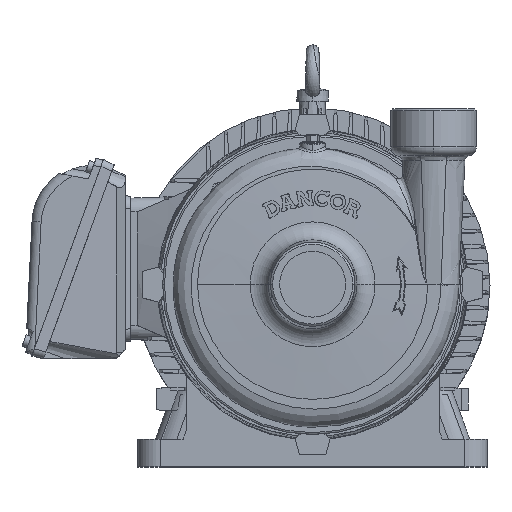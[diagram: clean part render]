
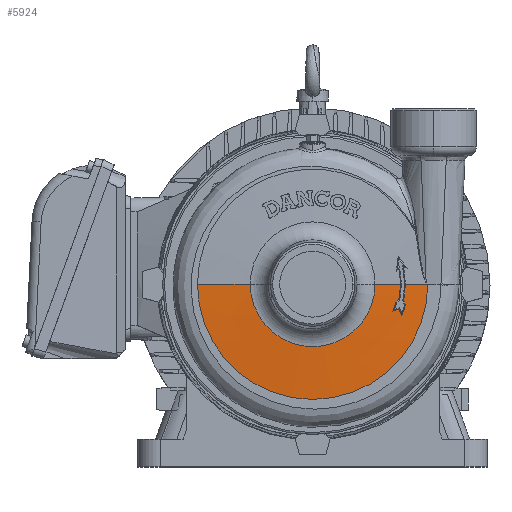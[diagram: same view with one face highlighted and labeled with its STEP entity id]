
A CAD part, top view. The second image highlights one B-rep face of the part: STEP entity #5924.
In plain terms, the highlighted conical face has half-angle 87 degrees and reference radius 128.5 mm.
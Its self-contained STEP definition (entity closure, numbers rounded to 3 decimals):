
#285 = LINE ( 'NONE', #10183, #22970 ) ;
#289 = VERTEX_POINT ( 'NONE', #22758 ) ;
#432 = CARTESIAN_POINT ( 'NONE',  ( 92.719, -28.056, 13.458 ) ) ;
#1742 = CARTESIAN_POINT ( 'NONE',  ( 0., 0., 11.8 ) ) ;
#2286 = CARTESIAN_POINT ( 'NONE',  ( 96.025, -29.482, 13.271 ) ) ;
#2460 = B_SPLINE_CURVE_WITH_KNOTS ( 'NONE', 3,
 ( #7739, #31206, #34259, #27455 ),
 .UNSPECIFIED., .F., .F.,
 ( 4, 4 ),
 ( 0., 0.005 ),
 .UNSPECIFIED. ) ;
#2649 = CARTESIAN_POINT ( 'NONE',  ( 100.115, -17.887, 13.205 ) ) ;
#3497 = CARTESIAN_POINT ( 'NONE',  ( 0., 0., 14.937 ) ) ;
#3611 = DIRECTION ( 'NONE',  ( -1., 0., 0. ) ) ;
#3655 = EDGE_CURVE ( 'NONE', #25845, #289, #36688, .T. ) ;
#3740 = CARTESIAN_POINT ( 'NONE',  ( 90.475, -28.859, 13.558 ) ) ;
#3805 = DIRECTION ( 'NONE',  ( 1., 0., 0. ) ) ;
#4360 = CARTESIAN_POINT ( 'NONE',  ( 90.779, -23.002, 13.63 ) ) ;
#4491 = CARTESIAN_POINT ( 'NONE',  ( 126.494, -0.214, 11.905 ) ) ;
#4513 = DIRECTION ( 'NONE',  ( 0., 0., 1. ) ) ;
#5113 = CARTESIAN_POINT ( 'NONE',  ( 101.126, -26.155, 13.065 ) ) ;
#5465 = EDGE_CURVE ( 'NONE', #26636, #7824, #2460, .T. ) ;
#5566 = CARTESIAN_POINT ( 'NONE',  ( -126.636, 0., 11.898 ) ) ;
#5924 = ADVANCED_FACE ( 'NONE', ( #34651 ), #41995, .T. ) ;
#6223 = B_SPLINE_CURVE_WITH_KNOTS ( 'NONE', 3,
 ( #28819, #8033, #2286, #8882 ),
 .UNSPECIFIED., .F., .F.,
 ( 4, 4 ),
 ( 0., 0.007 ),
 .UNSPECIFIED. ) ;
#6443 = AXIS2_PLACEMENT_3D ( 'NONE', #3497, #22830, #36417 ) ;
#6906 = CARTESIAN_POINT ( 'NONE',  ( 0., 0., 13.488 ) ) ;
#7483 = VERTEX_POINT ( 'NONE', #5566 ) ;
#7739 = CARTESIAN_POINT ( 'NONE',  ( 100.115, -17.887, 13.205 ) ) ;
#7788 = CARTESIAN_POINT ( 'NONE',  ( 126.635, -0.318, 11.898 ) ) ;
#7824 = VERTEX_POINT ( 'NONE', #14976 ) ;
#7991 = CARTESIAN_POINT ( 'NONE',  ( 102.119, -22.096, 13.059 ) ) ;
#8033 = CARTESIAN_POINT ( 'NONE',  ( 97.086, -31.711, 13.183 ) ) ;
#8285 = CIRCLE ( 'NONE', #26471, 126.636 ) ;
#8414 = ORIENTED_EDGE ( 'NONE', *, *, #36244, .F. ) ;
#8769 = DIRECTION ( 'NONE',  ( -1., 0., 0. ) ) ;
#8882 = CARTESIAN_POINT ( 'NONE',  ( 94.963, -27.253, 13.357 ) ) ;
#8941 = VERTEX_POINT ( 'NONE', #27688 ) ;
#10106 = LINE ( 'NONE', #43036, #12084 ) ;
#10183 = CARTESIAN_POINT ( 'NONE',  ( 128.5, 0., 11.8 ) ) ;
#10555 = CIRCLE ( 'NONE', #25280, 96.3 ) ;
#11386 = CIRCLE ( 'NONE', #6443, 68.643 ) ;
#11593 = CARTESIAN_POINT ( 'NONE',  ( 126.635, -0.318, 11.898 ) ) ;
#12084 = VECTOR ( 'NONE', #22625, 1000. ) ;
#12814 = CARTESIAN_POINT ( 'NONE',  ( 92.668, -18.762, 13.58 ) ) ;
#14585 = CARTESIAN_POINT ( 'NONE',  ( 126.217, 0., 11.92 ) ) ;
#14976 = CARTESIAN_POINT ( 'NONE',  ( 102.119, -22.096, 13.059 ) ) ;
#15244 = B_SPLINE_CURVE_WITH_KNOTS ( 'NONE', 3,
 ( #7788, #4491, #17871, #14585 ),
 .UNSPECIFIED., .F., .F.,
 ( 4, 4 ),
 ( 0., 0.001 ),
 .UNSPECIFIED. ) ;
#16774 = EDGE_CURVE ( 'NONE', #22702, #8941, #17269, .T. ) ;
#17269 = B_SPLINE_CURVE_WITH_KNOTS ( 'NONE', 3,
 ( #28037, #28676, #4360, #17747 ),
 .UNSPECIFIED., .F., .F.,
 ( 4, 4 ),
 ( 0., 0.011 ),
 .UNSPECIFIED. ) ;
#17747 = CARTESIAN_POINT ( 'NONE',  ( 91.628, -19.53, 13.624 ) ) ;
#17871 = CARTESIAN_POINT ( 'NONE',  ( 126.355, -0.108, 11.912 ) ) ;
#18315 = CARTESIAN_POINT ( 'NONE',  ( 0., 0., 13.205 ) ) ;
#18618 = DIRECTION ( 'NONE',  ( 0., 0., -1. ) ) ;
#19555 = VERTEX_POINT ( 'NONE', #27783 ) ;
#20112 = EDGE_CURVE ( 'NONE', #8941, #34280, #28569, .T. ) ;
#20341 = AXIS2_PLACEMENT_3D ( 'NONE', #18315, #25332, #42246 ) ;
#21091 = ORIENTED_EDGE ( 'NONE', *, *, #20112, .T. ) ;
#22313 = ORIENTED_EDGE ( 'NONE', *, *, #16774, .T. ) ;
#22625 = DIRECTION ( 'NONE',  ( -0.999, 0., -0.052 ) ) ;
#22702 = VERTEX_POINT ( 'NONE', #31862 ) ;
#22750 = ORIENTED_EDGE ( 'NONE', *, *, #41287, .T. ) ;
#22758 = CARTESIAN_POINT ( 'NONE',  ( 96.3, 0., 13.488 ) ) ;
#22830 = DIRECTION ( 'NONE',  ( 0., 0., -1. ) ) ;
#22970 = VECTOR ( 'NONE', #27045, 1000. ) ;
#23034 = AXIS2_PLACEMENT_3D ( 'NONE', #1742, #18618, #8769 ) ;
#23088 = CARTESIAN_POINT ( 'NONE',  ( 91.628, -19.53, 13.624 ) ) ;
#23312 = DIRECTION ( 'NONE',  ( 0.999, 0., -0.052 ) ) ;
#23973 = EDGE_LOOP ( 'NONE', ( #32872, #28107, #33224, #30542, #29207, #8414, #27598, #29622, #32714, #24970, #42619, #22313, #21091, #22750 ) ) ;
#24864 = DIRECTION ( 'NONE',  ( 0., 0., 1. ) ) ;
#24970 = ORIENTED_EDGE ( 'NONE', *, *, #41435, .T. ) ;
#24993 = CARTESIAN_POINT ( 'NONE',  ( 68.643, 0., 14.937 ) ) ;
#25068 = CARTESIAN_POINT ( 'NONE',  ( 99.802, -30.103, 13.076 ) ) ;
#25118 = VERTEX_POINT ( 'NONE', #27271 ) ;
#25280 = AXIS2_PLACEMENT_3D ( 'NONE', #6906, #4513, #3611 ) ;
#25332 = DIRECTION ( 'NONE',  ( 0., 0., -1. ) ) ;
#25333 = CARTESIAN_POINT ( 'NONE',  ( 94.747, -17.224, 13.488 ) ) ;
#25845 = VERTEX_POINT ( 'NONE', #24993 ) ;
#26177 = CARTESIAN_POINT ( 'NONE',  ( 93.708, -17.993, 13.534 ) ) ;
#26471 = AXIS2_PLACEMENT_3D ( 'NONE', #34299, #24864, #3805 ) ;
#26636 = VERTEX_POINT ( 'NONE', #2649 ) ;
#27045 = DIRECTION ( 'NONE',  ( 0.999, 0., -0.052 ) ) ;
#27271 = CARTESIAN_POINT ( 'NONE',  ( 94.963, -27.253, 13.357 ) ) ;
#27455 = CARTESIAN_POINT ( 'NONE',  ( 102.119, -22.096, 13.059 ) ) ;
#27513 = CARTESIAN_POINT ( 'NONE',  ( 126.217, 0., 11.92 ) ) ;
#27598 = ORIENTED_EDGE ( 'NONE', *, *, #40665, .T. ) ;
#27688 = CARTESIAN_POINT ( 'NONE',  ( 91.628, -19.53, 13.624 ) ) ;
#27783 = CARTESIAN_POINT ( 'NONE',  ( -68.643, 0., 14.937 ) ) ;
#27950 = EDGE_CURVE ( 'NONE', #25118, #22702, #34851, .T. ) ;
#28037 = CARTESIAN_POINT ( 'NONE',  ( 88.231, -29.661, 13.656 ) ) ;
#28107 = ORIENTED_EDGE ( 'NONE', *, *, #43404, .T. ) ;
#28149 = CARTESIAN_POINT ( 'NONE',  ( 98.147, -33.939, 13.092 ) ) ;
#28219 = CARTESIAN_POINT ( 'NONE',  ( 98.147, -33.939, 13.092 ) ) ;
#28569 = B_SPLINE_CURVE_WITH_KNOTS ( 'NONE', 3,
 ( #23088, #12814, #26177, #36469 ),
 .UNSPECIFIED., .F., .F.,
 ( 4, 4 ),
 ( 0., 0.004 ),
 .UNSPECIFIED. ) ;
#28676 = CARTESIAN_POINT ( 'NONE',  ( 89.647, -26.379, 13.641 ) ) ;
#28819 = CARTESIAN_POINT ( 'NONE',  ( 98.147, -33.939, 13.092 ) ) ;
#29063 = EDGE_CURVE ( 'NONE', #7824, #31453, #32716, .T. ) ;
#29207 = ORIENTED_EDGE ( 'NONE', *, *, #31957, .T. ) ;
#29622 = ORIENTED_EDGE ( 'NONE', *, *, #5465, .T. ) ;
#30542 = ORIENTED_EDGE ( 'NONE', *, *, #36395, .T. ) ;
#31206 = CARTESIAN_POINT ( 'NONE',  ( 100.783, -19.29, 13.157 ) ) ;
#31335 = CARTESIAN_POINT ( 'NONE',  ( 88.231, -29.661, 13.656 ) ) ;
#31453 = VERTEX_POINT ( 'NONE', #28219 ) ;
#31862 = CARTESIAN_POINT ( 'NONE',  ( 88.231, -29.661, 13.656 ) ) ;
#31957 = EDGE_CURVE ( 'NONE', #35586, #33297, #15244, .T. ) ;
#32714 = ORIENTED_EDGE ( 'NONE', *, *, #29063, .T. ) ;
#32716 = B_SPLINE_CURVE_WITH_KNOTS ( 'NONE', 3,
 ( #7991, #5113, #25068, #28149 ),
 .UNSPECIFIED., .F., .F.,
 ( 4, 4 ),
 ( 0., 0.012 ),
 .UNSPECIFIED. ) ;
#32872 = ORIENTED_EDGE ( 'NONE', *, *, #3655, .F. ) ;
#33224 = ORIENTED_EDGE ( 'NONE', *, *, #43319, .T. ) ;
#33297 = VERTEX_POINT ( 'NONE', #27513 ) ;
#33398 = CARTESIAN_POINT ( 'NONE',  ( 128.5, 0., 11.8 ) ) ;
#34259 = CARTESIAN_POINT ( 'NONE',  ( 101.451, -20.693, 13.108 ) ) ;
#34280 = VERTEX_POINT ( 'NONE', #25333 ) ;
#34299 = CARTESIAN_POINT ( 'NONE',  ( 0., 0., 11.898 ) ) ;
#34651 = FACE_OUTER_BOUND ( 'NONE', #23973, .T. ) ;
#34851 = B_SPLINE_CURVE_WITH_KNOTS ( 'NONE', 3,
 ( #38558, #432, #3740, #31335 ),
 .UNSPECIFIED., .F., .F.,
 ( 4, 4 ),
 ( 0., 0.007 ),
 .UNSPECIFIED. ) ;
#35586 = VERTEX_POINT ( 'NONE', #11593 ) ;
#36244 = EDGE_CURVE ( 'NONE', #39249, #33297, #285, .T. ) ;
#36395 = EDGE_CURVE ( 'NONE', #7483, #35586, #8285, .T. ) ;
#36417 = DIRECTION ( 'NONE',  ( -1., 0., 0. ) ) ;
#36469 = CARTESIAN_POINT ( 'NONE',  ( 94.747, -17.224, 13.488 ) ) ;
#36688 = LINE ( 'NONE', #33398, #43420 ) ;
#38558 = CARTESIAN_POINT ( 'NONE',  ( 94.963, -27.253, 13.357 ) ) ;
#39249 = VERTEX_POINT ( 'NONE', #40207 ) ;
#39266 = CIRCLE ( 'NONE', #20341, 101.7 ) ;
#40207 = CARTESIAN_POINT ( 'NONE',  ( 101.7, 0., 13.205 ) ) ;
#40665 = EDGE_CURVE ( 'NONE', #39249, #26636, #39266, .T. ) ;
#41287 = EDGE_CURVE ( 'NONE', #34280, #289, #10555, .T. ) ;
#41435 = EDGE_CURVE ( 'NONE', #31453, #25118, #6223, .T. ) ;
#41995 = CONICAL_SURFACE ( 'NONE', #23034, 128.5, 1.518 ) ;
#42246 = DIRECTION ( 'NONE',  ( -1., 0., 0. ) ) ;
#42619 = ORIENTED_EDGE ( 'NONE', *, *, #27950, .T. ) ;
#43036 = CARTESIAN_POINT ( 'NONE',  ( -128.5, 0., 11.8 ) ) ;
#43319 = EDGE_CURVE ( 'NONE', #19555, #7483, #10106, .T. ) ;
#43404 = EDGE_CURVE ( 'NONE', #25845, #19555, #11386, .T. ) ;
#43420 = VECTOR ( 'NONE', #23312, 1000. ) ;
